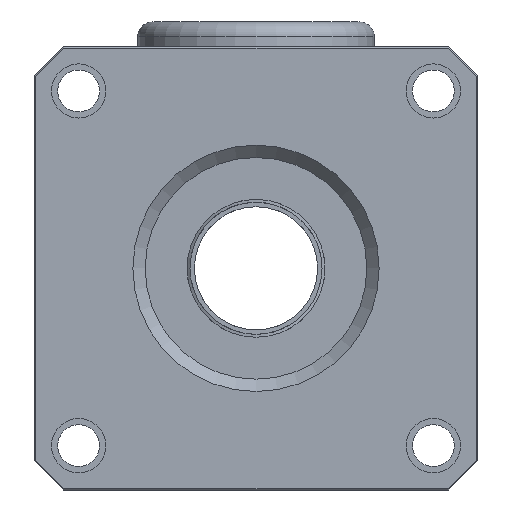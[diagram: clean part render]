
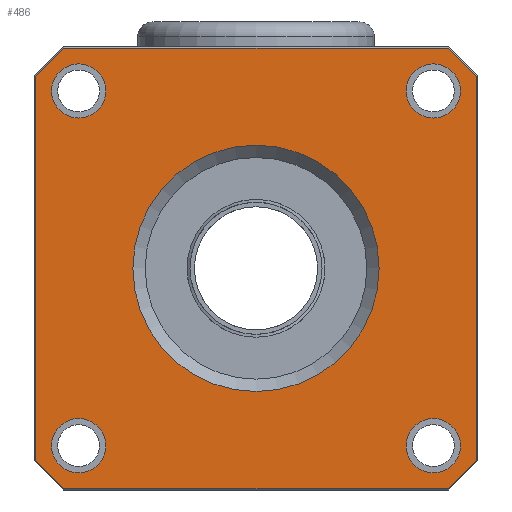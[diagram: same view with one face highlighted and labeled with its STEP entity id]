
A CAD part, front view. The second image highlights one B-rep face of the part: STEP entity #486.
In plain terms, the highlighted planar face has unit normal (0, -1, 0) as drawn and (0, 0, -1) by its records, which use the part's own axes.
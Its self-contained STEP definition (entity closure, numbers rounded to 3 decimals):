
#486=ADVANCED_FACE('',(#818,#819,#820,#821,#822,#823),#824,.F.);
#818=FACE_OUTER_BOUND('',#1185,.T.);
#819=FACE_BOUND('',#1186,.T.);
#820=FACE_BOUND('',#1187,.T.);
#821=FACE_BOUND('',#1188,.T.);
#822=FACE_BOUND('',#1189,.T.);
#823=FACE_BOUND('',#1190,.T.);
#824=PLANE('',#1191);
#1185=EDGE_LOOP('',(#1876,#1877,#1878,#1879,#1880,#1881,#1882,#1883));
#1186=EDGE_LOOP('',(#1884));
#1187=EDGE_LOOP('',(#1885));
#1188=EDGE_LOOP('',(#1886));
#1189=EDGE_LOOP('',(#1887));
#1190=EDGE_LOOP('',(#1888));
#1191=AXIS2_PLACEMENT_3D('',#1889,#1890,#1891);
#1876=ORIENTED_EDGE('',*,*,#2155,.T.);
#1877=ORIENTED_EDGE('',*,*,#2149,.T.);
#1878=ORIENTED_EDGE('',*,*,#2152,.T.);
#1879=ORIENTED_EDGE('',*,*,#2158,.T.);
#1880=ORIENTED_EDGE('',*,*,#2166,.T.);
#1881=ORIENTED_EDGE('',*,*,#2172,.T.);
#1882=ORIENTED_EDGE('',*,*,#2169,.T.);
#1883=ORIENTED_EDGE('',*,*,#2163,.T.);
#1884=ORIENTED_EDGE('',*,*,#2302,.F.);
#1885=ORIENTED_EDGE('',*,*,#2309,.F.);
#1886=ORIENTED_EDGE('',*,*,#2102,.F.);
#1887=ORIENTED_EDGE('',*,*,#2099,.F.);
#1888=ORIENTED_EDGE('',*,*,#2097,.T.);
#1889=CARTESIAN_POINT('',(0.0,0.0,0.0));
#1890=DIRECTION('',(0.0,0.0,1.0));
#1891=DIRECTION('',(1.0,0.0,0.0));
#2097=EDGE_CURVE('',#2407,#2407,#2408,.T.);
#2099=EDGE_CURVE('',#2410,#2410,#2411,.T.);
#2102=EDGE_CURVE('',#2415,#2415,#2416,.T.);
#2149=EDGE_CURVE('',#2491,#2494,#2496,.T.);
#2152=EDGE_CURVE('',#2494,#2498,#2500,.T.);
#2155=EDGE_CURVE('',#2502,#2491,#2504,.T.);
#2158=EDGE_CURVE('',#2498,#2506,#2508,.T.);
#2163=EDGE_CURVE('',#2511,#2502,#2514,.T.);
#2166=EDGE_CURVE('',#2506,#2516,#2518,.T.);
#2169=EDGE_CURVE('',#2520,#2511,#2522,.T.);
#2172=EDGE_CURVE('',#2516,#2520,#2525,.T.);
#2302=EDGE_CURVE('',#2697,#2697,#2698,.T.);
#2309=EDGE_CURVE('',#2706,#2706,#2707,.T.);
#2407=VERTEX_POINT('',#3136);
#2408=CIRCLE('',#3137,25.0);
#2410=VERTEX_POINT('',#3139);
#2411=CIRCLE('',#3140,5.5);
#2415=VERTEX_POINT('',#3144);
#2416=CIRCLE('',#3145,5.5);
#2491=VERTEX_POINT('',#3250);
#2494=VERTEX_POINT('',#3255);
#2496=LINE('',#3258,#3259);
#2498=VERTEX_POINT('',#3261);
#2500=LINE('',#3264,#3265);
#2502=VERTEX_POINT('',#3267);
#2504=LINE('',#3270,#3271);
#2506=VERTEX_POINT('',#3273);
#2508=LINE('',#3276,#3277);
#2511=VERTEX_POINT('',#3281);
#2514=LINE('',#3286,#3287);
#2516=VERTEX_POINT('',#3289);
#2518=LINE('',#3292,#3293);
#2520=VERTEX_POINT('',#3295);
#2522=LINE('',#3298,#3299);
#2525=LINE('',#3303,#3304);
#2697=VERTEX_POINT('',#3546);
#2698=CIRCLE('',#3547,5.5);
#2706=VERTEX_POINT('',#3555);
#2707=CIRCLE('',#3556,5.5);
#3136=CARTESIAN_POINT('',(25.0,0.0,0.0));
#3137=AXIS2_PLACEMENT_3D('',#3854,#3855,#3856);
#3139=CARTESIAN_POINT('',(-41.5,36.0,0.0));
#3140=AXIS2_PLACEMENT_3D('',#3857,#3858,#3859);
#3144=CARTESIAN_POINT('',(30.5,36.0,0.0));
#3145=AXIS2_PLACEMENT_3D('',#3863,#3864,#3865);
#3250=CARTESIAN_POINT('',(-44.7,38.976,0.0));
#3255=CARTESIAN_POINT('',(-38.976,44.7,0.0));
#3258=CARTESIAN_POINT('',(-41.838,41.838,0.0));
#3259=VECTOR('',#3908,1.0);
#3261=CARTESIAN_POINT('',(38.976,44.7,0.0));
#3264=CARTESIAN_POINT('',(39.1,44.7,0.0));
#3265=VECTOR('',#3910,1.0);
#3267=CARTESIAN_POINT('',(-44.7,-38.976,0.0));
#3270=CARTESIAN_POINT('',(-44.7,39.1,0.0));
#3271=VECTOR('',#3912,1.0);
#3273=CARTESIAN_POINT('',(44.7,38.976,0.0));
#3276=CARTESIAN_POINT('',(41.838,41.838,0.0));
#3277=VECTOR('',#3914,1.0);
#3281=CARTESIAN_POINT('',(-38.976,-44.7,0.0));
#3286=CARTESIAN_POINT('',(-41.838,-41.838,0.0));
#3287=VECTOR('',#3918,1.0);
#3289=CARTESIAN_POINT('',(44.7,-38.976,0.0));
#3292=CARTESIAN_POINT('',(44.7,-39.1,0.0));
#3293=VECTOR('',#3920,1.0);
#3295=CARTESIAN_POINT('',(38.976,-44.7,0.0));
#3298=CARTESIAN_POINT('',(-39.1,-44.7,0.0));
#3299=VECTOR('',#3922,1.0);
#3303=CARTESIAN_POINT('',(41.838,-41.838,0.0));
#3304=VECTOR('',#3924,1.0);
#3546=CARTESIAN_POINT('',(-41.5,-36.0,0.0));
#3547=AXIS2_PLACEMENT_3D('',#4037,#4038,#4039);
#3555=CARTESIAN_POINT('',(30.5,-36.0,0.0));
#3556=AXIS2_PLACEMENT_3D('',#4046,#4047,#4048);
#3854=CARTESIAN_POINT('',(0.0,0.0,0.0));
#3855=DIRECTION('',(0.0,0.0,1.0));
#3856=DIRECTION('',(1.0,0.0,0.0));
#3857=CARTESIAN_POINT('',(-36.0,36.0,0.0));
#3858=DIRECTION('',(0.0,0.0,-1.0));
#3859=DIRECTION('',(-1.0,0.0,0.0));
#3863=CARTESIAN_POINT('',(36.0,36.0,0.0));
#3864=DIRECTION('',(0.0,0.0,-1.0));
#3865=DIRECTION('',(-1.0,0.0,0.0));
#3908=DIRECTION('',(0.707,0.707,0.0));
#3910=DIRECTION('',(1.0,0.,0.0));
#3912=DIRECTION('',(0.,1.0,0.0));
#3914=DIRECTION('',(0.707,-0.707,0.0));
#3918=DIRECTION('',(-0.707,0.707,0.0));
#3920=DIRECTION('',(0.,-1.0,0.0));
#3922=DIRECTION('',(-1.0,0.0,0.0));
#3924=DIRECTION('',(-0.707,-0.707,0.0));
#4037=CARTESIAN_POINT('',(-36.0,-36.0,0.0));
#4038=DIRECTION('',(0.0,0.0,-1.0));
#4039=DIRECTION('',(-1.0,0.0,0.0));
#4046=CARTESIAN_POINT('',(36.0,-36.0,0.0));
#4047=DIRECTION('',(0.0,0.0,-1.0));
#4048=DIRECTION('',(-1.0,0.0,0.0));
